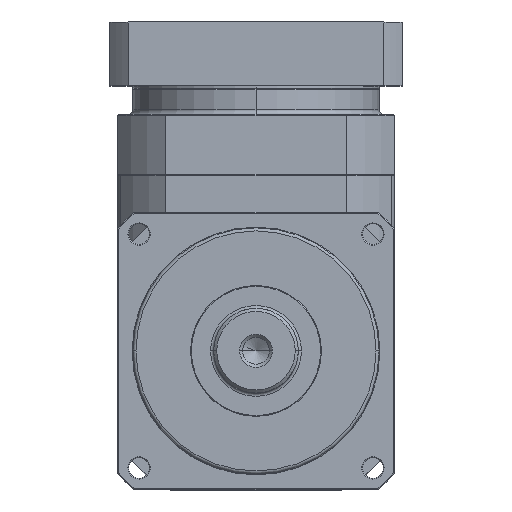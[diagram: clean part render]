
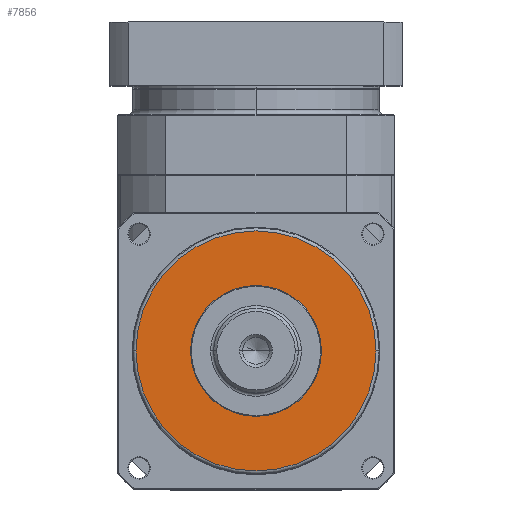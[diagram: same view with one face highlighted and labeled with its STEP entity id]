
A CAD part, top view. The second image highlights one B-rep face of the part: STEP entity #7856.
In plain terms, the highlighted planar face has unit normal (0, 0, 1).
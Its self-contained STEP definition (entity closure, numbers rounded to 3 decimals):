
#18 = VERTEX_POINT ( 'NONE', #4291 ) ;
#192 = ORIENTED_EDGE ( 'NONE', *, *, #2409, .F. ) ;
#244 = CARTESIAN_POINT ( 'NONE',  ( -78., 0., 35. ) ) ;
#300 = CIRCLE ( 'NONE', #5239, 78. ) ;
#480 = DIRECTION ( 'NONE',  ( 0., 0., 1. ) ) ;
#511 = EDGE_LOOP ( 'NONE', ( #192, #7083 ) ) ;
#518 = AXIS2_PLACEMENT_3D ( 'NONE', #674, #6643, #7346 ) ;
#655 = CARTESIAN_POINT ( 'NONE',  ( 0., 0., 35. ) ) ;
#674 = CARTESIAN_POINT ( 'NONE',  ( 0., 0., 35. ) ) ;
#742 = EDGE_CURVE ( 'NONE', #2276, #3893, #6717, .T. ) ;
#905 = EDGE_CURVE ( 'NONE', #3893, #2276, #300, .T. ) ;
#1190 = DIRECTION ( 'NONE',  ( 1., 0., 0. ) ) ;
#1243 = AXIS2_PLACEMENT_3D ( 'NONE', #3352, #4056, #3269 ) ;
#1306 = CARTESIAN_POINT ( 'NONE',  ( 78., 0., 35. ) ) ;
#1406 = FACE_BOUND ( 'NONE', #511, .T. ) ;
#1561 = CARTESIAN_POINT ( 'NONE',  ( -42.5, 0., 35. ) ) ;
#2276 = VERTEX_POINT ( 'NONE', #244 ) ;
#2409 = EDGE_CURVE ( 'NONE', #2520, #18, #5391, .T. ) ;
#2505 = CARTESIAN_POINT ( 'NONE',  ( 0., 0., 35. ) ) ;
#2520 = VERTEX_POINT ( 'NONE', #1561 ) ;
#2715 = CARTESIAN_POINT ( 'NONE',  ( 0., 0., 35. ) ) ;
#2722 = AXIS2_PLACEMENT_3D ( 'NONE', #2715, #2769, #6702 ) ;
#2769 = DIRECTION ( 'NONE',  ( 0., 0., 1. ) ) ;
#3057 = EDGE_CURVE ( 'NONE', #18, #2520, #4320, .T. ) ;
#3125 = DIRECTION ( 'NONE',  ( 0., 0., 1. ) ) ;
#3269 = DIRECTION ( 'NONE',  ( 1., 0., 0. ) ) ;
#3352 = CARTESIAN_POINT ( 'NONE',  ( 0., 0., 35. ) ) ;
#3893 = VERTEX_POINT ( 'NONE', #1306 ) ;
#4056 = DIRECTION ( 'NONE',  ( 0., 0., 1. ) ) ;
#4181 = ORIENTED_EDGE ( 'NONE', *, *, #905, .T. ) ;
#4291 = CARTESIAN_POINT ( 'NONE',  ( 42.5, 0., 35. ) ) ;
#4320 = CIRCLE ( 'NONE', #518, 42.5 ) ;
#4532 = EDGE_LOOP ( 'NONE', ( #4181, #6521 ) ) ;
#4624 = DIRECTION ( 'NONE',  ( 1., 0., 0. ) ) ;
#5239 = AXIS2_PLACEMENT_3D ( 'NONE', #2505, #3125, #4624 ) ;
#5391 = CIRCLE ( 'NONE', #2722, 42.5 ) ;
#5999 = AXIS2_PLACEMENT_3D ( 'NONE', #655, #480, #1190 ) ;
#6521 = ORIENTED_EDGE ( 'NONE', *, *, #742, .T. ) ;
#6643 = DIRECTION ( 'NONE',  ( 0., 0., 1. ) ) ;
#6702 = DIRECTION ( 'NONE',  ( 1., 0., 0. ) ) ;
#6717 = CIRCLE ( 'NONE', #5999, 78. ) ;
#7083 = ORIENTED_EDGE ( 'NONE', *, *, #3057, .F. ) ;
#7338 = FACE_OUTER_BOUND ( 'NONE', #4532, .T. ) ;
#7346 = DIRECTION ( 'NONE',  ( 1., 0., 0. ) ) ;
#7425 = PLANE ( 'NONE',  #1243 ) ;
#7856 = ADVANCED_FACE ( 'NONE', ( #1406, #7338 ), #7425, .T. ) ;
